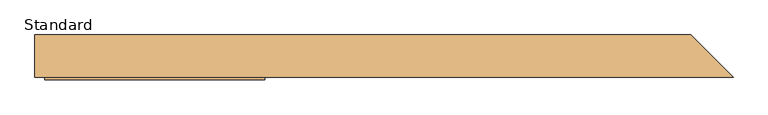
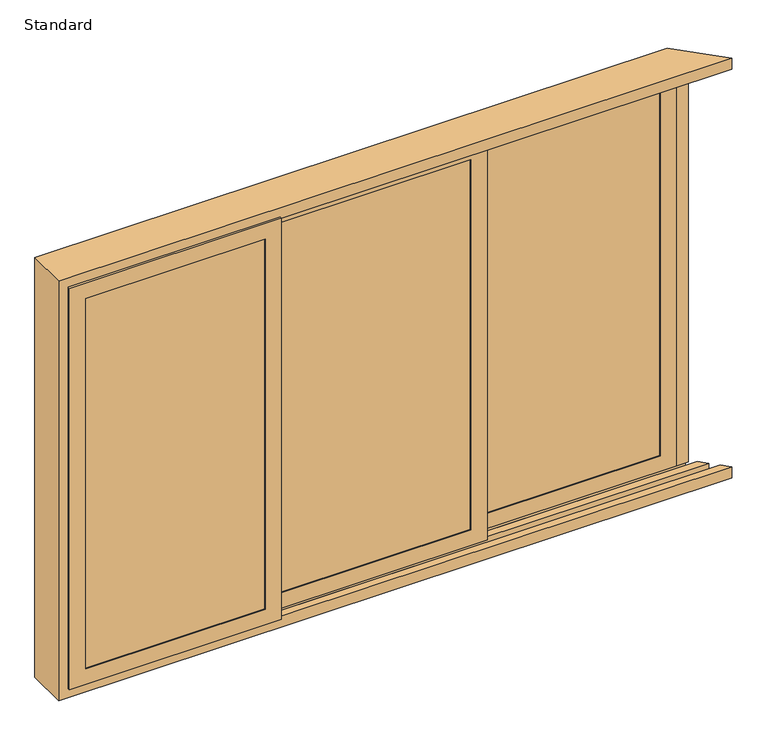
"""IFC4 building model written with IfcOpenShell, lengths in millimetres: door geometry, SMARTS_Visoglide Plus Corner Opening : Standard."""

from ifc_helpers import new_model, si_unit, frame, origin, place, context, project, spatial, polyline, outline, extrude, faceted_brep, source, transform, mapped, element, save


def standard_207e7545(model_context):
    return source(origin(), model_context, "Body", "SolidModel", [
        extrude(outline(polyline([(1347.5, 67.0), (1347.5, 63.0), (509.8333333, 63.0), (509.8333333, 67.0), (1347.5, 67.0)])), frame((0.0, 0.0, 952.5), z_axis=(0.0, 0.0, 1.0), x_axis=(1.0, 0.0, 0.0)), (0.0, 0.0, 1.0), 1795.0),
        extrude(outline(polyline([(1347.5, 47.0), (1347.5, 43.0), (509.8333333, 43.0), (509.8333333, 47.0), (1347.5, 47.0)])), frame((0.0, 0.0, 952.5), z_axis=(0.0, 0.0, 1.0), x_axis=(1.0, 0.0, 0.0)), (0.0, 0.0, 1.0), 1795.0),
        extrude(outline(polyline([(2747.5, 1347.5), (2747.5, 509.8333333), (952.5, 509.8333333), (952.5, 1347.5), (2747.5, 1347.5)]), holes=[polyline([(2737.5, 519.8333333), (2737.5, 1337.5), (962.5, 1337.5), (962.5, 519.8333333), (2737.5, 519.8333333)])]), frame((0.0, 47.0, 0.0), z_axis=(0.0, 1.0, 0.0), x_axis=(0.0, 0.0, 1.0)), (0.0, 0.0, 1.0), 16.0),
        extrude(outline(polyline([(947.5, 1352.5), (2752.5, 1352.5), (2752.5, 504.8333333), (947.5, 504.8333333), (947.5, 1352.5)]), holes=[polyline([(2732.5, 1332.5), (967.5, 1332.5), (967.5, 524.8333333), (2732.5, 524.8333333), (2732.5, 1332.5)])]), frame((0.0, 74.0102223, 0.0), z_axis=(0.0, 1.0, 0.0), x_axis=(0.0, 0.0, 1.0)), (0.0, 0.0, 1.0), 11.9897777),
        extrude(outline(polyline([(893.5, 1406.5), (2806.5, 1406.5), (2806.5, 450.8333333), (893.5, 450.8333333), (893.5, 1406.5)]), holes=[polyline([(2752.5, 1352.5), (947.5, 1352.5), (947.5, 504.8333333), (2752.5, 504.8333333), (2752.5, 1352.5)])]), frame((0.0, 62.0, 0.0), z_axis=(0.0, 1.0, 0.0), x_axis=(0.0, 0.0, 1.0)), (0.0, 0.0, 1.0), 24.0),
        faceted_brep([(1332.5, 39.0, 2732.5), (1332.5, 39.0, 967.5), (1332.5, 35.0, 967.5), (1332.5, 35.0, 2732.5), (1355.5, 62.0, 2755.5), (1355.5, 62.0, 944.5), (1355.5, 39.0, 944.5), (1355.5, 39.0, 2755.5), (1406.5, 35.0, 2806.5), (1406.5, 35.0, 893.5), (1406.5, 62.0, 893.5), (1406.5, 62.0, 2806.5), (524.8333333, 39.0, 967.5), (524.8333333, 35.0, 967.5), (501.8333333, 62.0, 944.5), (501.8333333, 39.0, 944.5), (450.8333333, 35.0, 893.5), (450.8333333, 62.0, 893.5), (524.8333333, 39.0, 2732.5), (524.8333333, 35.0, 2732.5), (501.8333333, 62.0, 2755.5), (501.8333333, 39.0, 2755.5), (450.8333333, 35.0, 2806.5), (450.8333333, 62.0, 2806.5)], [[[0, 1, 2, 3]], [[4, 5, 6, 7]], [[8, 9, 10, 11]], [[1, 12, 13, 2]], [[5, 14, 15, 6]], [[9, 16, 17, 10]], [[12, 18, 19, 13]], [[14, 20, 21, 15]], [[16, 22, 23, 17]], [[9, 8, 22, 16], [3, 2, 13, 19]], [[18, 0, 3, 19]], [[7, 6, 15, 21], [1, 0, 18, 12]], [[20, 4, 7, 21]], [[11, 10, 17, 23], [5, 4, 20, 14]], [[22, 8, 11, 23]]]),
        extrude(outline(polyline([(456.8333333, 0.0), (456.8333333, -4.0), (-456.8333333, -4.0), (-456.8333333, 0.0), (456.8333333, 0.0)])), frame((0.0, 0.0, 952.5), z_axis=(0.0, 0.0, 1.0), x_axis=(1.0, 0.0, 0.0)), (0.0, 0.0, 1.0), 1795.0),
        extrude(outline(polyline([(456.8333333, -20.0), (456.8333333, -24.0), (-456.8333333, -24.0), (-456.8333333, -20.0), (456.8333333, -20.0)])), frame((0.0, 0.0, 952.5), z_axis=(0.0, 0.0, 1.0), x_axis=(1.0, 0.0, 0.0)), (0.0, 0.0, 1.0), 1795.0),
        extrude(outline(polyline([(2747.5, 456.8333333), (2747.5, -456.8333333), (952.5, -456.8333333), (952.5, 456.8333333), (2747.5, 456.8333333)]), holes=[polyline([(2737.5, -446.8333333), (2737.5, 446.8333333), (962.5, 446.8333333), (962.5, -446.8333333), (2737.5, -446.8333333)])]), frame((0.0, -20.0, 0.0), z_axis=(0.0, 1.0, 0.0), x_axis=(0.0, 0.0, 1.0)), (0.0, 0.0, 1.0), 16.0),
        extrude(outline(polyline([(947.5, 461.8333333), (2752.5, 461.8333333), (2752.5, -461.8333333), (947.5, -461.8333333), (947.5, 461.8333333)]), holes=[polyline([(2732.5, 441.8333333), (967.5, 441.8333333), (967.5, -441.8333333), (2732.5, -441.8333333), (2732.5, 441.8333333)])]), frame((0.0, 7.0102223, 0.0), z_axis=(0.0, 1.0, 0.0), x_axis=(0.0, 0.0, 1.0)), (0.0, 0.0, 1.0), 11.9897777),
        extrude(outline(polyline([(893.5, 515.8333333), (2806.5, 515.8333333), (2806.5, -515.8333333), (893.5, -515.8333333), (893.5, 515.8333333)]), holes=[polyline([(2752.5, 461.8333333), (947.5, 461.8333333), (947.5, -461.8333333), (2752.5, -461.8333333), (2752.5, 461.8333333)])]), frame((0.0, -5.0, 0.0), z_axis=(0.0, 1.0, 0.0), x_axis=(0.0, 0.0, 1.0)), (0.0, 0.0, 1.0), 24.0),
        faceted_brep([(441.8333333, -28.0, 2732.5), (441.8333333, -28.0, 967.5), (441.8333333, -32.0, 967.5), (441.8333333, -32.0, 2732.5), (464.8333333, -5.0, 2755.5), (464.8333333, -5.0, 944.5), (464.8333333, -28.0, 944.5), (464.8333333, -28.0, 2755.5), (515.8333333, -32.0, 2806.5), (515.8333333, -32.0, 893.5), (515.8333333, -5.0, 893.5), (515.8333333, -5.0, 2806.5), (-441.8333333, -28.0, 967.5), (-441.8333333, -32.0, 967.5), (-464.8333333, -5.0, 944.5), (-464.8333333, -28.0, 944.5), (-515.8333333, -32.0, 893.5), (-515.8333333, -5.0, 893.5), (-441.8333333, -28.0, 2732.5), (-441.8333333, -32.0, 2732.5), (-464.8333333, -5.0, 2755.5), (-464.8333333, -28.0, 2755.5), (-515.8333333, -32.0, 2806.5), (-515.8333333, -5.0, 2806.5)], [[[0, 1, 2, 3]], [[4, 5, 6, 7]], [[8, 9, 10, 11]], [[1, 12, 13, 2]], [[5, 14, 15, 6]], [[9, 16, 17, 10]], [[12, 18, 19, 13]], [[14, 20, 21, 15]], [[16, 22, 23, 17]], [[9, 8, 22, 16], [3, 2, 13, 19]], [[18, 0, 3, 19]], [[7, 6, 15, 21], [1, 0, 18, 12]], [[20, 4, 7, 21]], [[11, 10, 17, 23], [5, 4, 20, 14]], [[22, 8, 11, 23]]]),
        extrude(outline(polyline([(-509.8333333, -67.0), (-509.8333333, -71.0), (-1347.5, -71.0), (-1347.5, -67.0), (-509.8333333, -67.0)])), frame((0.0, 0.0, 952.5), z_axis=(0.0, 0.0, 1.0), x_axis=(1.0, 0.0, 0.0)), (0.0, 0.0, 1.0), 1795.0),
        extrude(outline(polyline([(-509.8333333, -87.0), (-509.8333333, -91.0), (-1347.5, -91.0), (-1347.5, -87.0), (-509.8333333, -87.0)])), frame((0.0, 0.0, 952.5), z_axis=(0.0, 0.0, 1.0), x_axis=(1.0, 0.0, 0.0)), (0.0, 0.0, 1.0), 1795.0),
        extrude(outline(polyline([(2747.5, -509.8333333), (2747.5, -1347.5), (952.5, -1347.5), (952.5, -509.8333333), (2747.5, -509.8333333)]), holes=[polyline([(2737.5, -1337.5), (2737.5, -519.8333333), (962.5, -519.8333333), (962.5, -1337.5), (2737.5, -1337.5)])]), frame((0.0, -87.0, 0.0), z_axis=(0.0, 1.0, 0.0), x_axis=(0.0, 0.0, 1.0)), (0.0, 0.0, 1.0), 16.0),
        extrude(outline(polyline([(947.5, -504.8333333), (2752.5, -504.8333333), (2752.5, -1352.5), (947.5, -1352.5), (947.5, -504.8333333)]), holes=[polyline([(2732.5, -524.8333333), (967.5, -524.8333333), (967.5, -1332.5), (2732.5, -1332.5), (2732.5, -524.8333333)])]), frame((0.0, -59.9897777, 0.0), z_axis=(0.0, 1.0, 0.0), x_axis=(0.0, 0.0, 1.0)), (0.0, 0.0, 1.0), 11.9897777),
        extrude(outline(polyline([(893.5, -450.8333333), (2806.5, -450.8333333), (2806.5, -1406.5), (893.5, -1406.5), (893.5, -450.8333333)]), holes=[polyline([(2752.5, -504.8333333), (947.5, -504.8333333), (947.5, -1352.5), (2752.5, -1352.5), (2752.5, -504.8333333)])]), frame((0.0, -72.0, 0.0), z_axis=(0.0, 1.0, 0.0), x_axis=(0.0, 0.0, 1.0)), (0.0, 0.0, 1.0), 24.0),
        faceted_brep([(-524.8333333, -95.0, 2732.5), (-524.8333333, -95.0, 967.5), (-524.8333333, -99.0, 967.5), (-524.8333333, -99.0, 2732.5), (-501.8333333, -72.0, 2755.5), (-501.8333333, -72.0, 944.5), (-501.8333333, -95.0, 944.5), (-501.8333333, -95.0, 2755.5), (-450.8333333, -99.0, 2806.5), (-450.8333333, -99.0, 893.5), (-450.8333333, -72.0, 893.5), (-450.8333333, -72.0, 2806.5), (-1332.5, -95.0, 967.5), (-1332.5, -99.0, 967.5), (-1355.5, -72.0, 944.5), (-1355.5, -95.0, 944.5), (-1406.5, -99.0, 893.5), (-1406.5, -72.0, 893.5), (-1332.5, -95.0, 2732.5), (-1332.5, -99.0, 2732.5), (-1355.5, -72.0, 2755.5), (-1355.5, -95.0, 2755.5), (-1406.5, -99.0, 2806.5), (-1406.5, -72.0, 2806.5)], [[[0, 1, 2, 3]], [[4, 5, 6, 7]], [[8, 9, 10, 11]], [[1, 12, 13, 2]], [[5, 14, 15, 6]], [[9, 16, 17, 10]], [[12, 18, 19, 13]], [[14, 20, 21, 15]], [[16, 22, 23, 17]], [[9, 8, 22, 16], [3, 2, 13, 19]], [[18, 0, 3, 19]], [[7, 6, 15, 21], [1, 0, 18, 12]], [[20, 4, 7, 21]], [[11, 10, 17, 23], [5, 4, 20, 14]], [[22, 8, 11, 23]]]),
        faceted_brep([(-1450.0, -89.39785, 2850.0), (1584.4707253, -89.39785, 2850.0), (1400.0728753, 95.0, 2850.0), (-1450.0, 95.0, 2850.0), (-1398.1999999, 95.0, 2798.1999999), (1400.0728753, 95.0, 2798.1999999), (1404.0728753, 91.0, 2798.1999999), (-1398.1999999, 91.0, 2798.1999999), (-1424.1999999, 91.0, 2824.1999999), (1404.0728753, 91.0, 2824.1999999), (1418.7728753, 76.3, 2824.1999999), (-1424.1999999, 76.3, 2824.1999999), (-1398.1999999, 76.3, 2798.1999999), (1418.7728753, 76.3, 2798.1999999), (1451.2886502, 43.7842251, 2798.1999999), (-1398.1999999, 43.7842251, 2798.1999999), (-1424.1999999, 43.7842251, 2824.1999999), (1451.2886502, 43.7842251, 2824.1999999), (1485.2886502, 9.7842251, 2824.1999999), (-1424.1999999, 9.7842251, 2824.1999999), (-1398.1999999, 9.7842251, 2798.1999999), (1485.2886502, 9.7842251, 2798.1999999), (1517.8718161, -22.7989407, 2798.1999999), (-1398.1999999, -22.7989407, 2798.1999999), (-1424.2, -22.7989407, 2824.2), (1517.8718161, -22.7989407, 2824.2), (1551.8718161, -56.7989407, 2824.2), (-1424.2, -56.7989407, 2824.2), (-1398.0, -56.7989407, 2798.0), (1551.8718161, -56.7989407, 2798.0), (1584.4707253, -89.39785, 2798.0), (-1398.0, -89.39785, 2798.0), (-1450.0, 95.0, 850.0), (-1450.0, -89.39785, 850.0), (-1398.1999999, 91.0, 901.8000001), (-1398.1999999, 95.0, 901.8000001), (-1424.1999999, 76.3, 875.8000001), (-1424.1999999, 91.0, 875.8000001), (-1398.1999999, 43.7842251, 901.8000001), (-1398.1999999, 76.3, 901.8000001), (-1424.1999999, 9.7842251, 875.8000001), (-1424.1999999, 43.7842251, 875.8000001), (-1398.1999999, -22.7989407, 901.8000001), (-1398.1999999, 9.7842251, 901.8000001), (-1424.2, -56.7989407, 875.8), (-1424.2, -22.7989407, 875.8), (-1398.0, -89.39785, 902.0), (-1398.0, -56.7989407, 902.0), (1400.0728753, 95.0, 850.0), (1584.4707253, -89.39785, 850.0), (1404.0728753, 91.0, 901.8000001), (1400.0728753, 95.0, 901.8000001), (1418.7728753, 76.3, 875.8000001), (1404.0728753, 91.0, 875.8000001), (1451.2886502, 43.7842251, 901.8000001), (1418.7728753, 76.3, 901.8000001), (1485.2886502, 9.7842251, 875.8000001), (1451.2886502, 43.7842251, 875.8000001), (1517.8718161, -22.7989407, 901.8000001), (1485.2886502, 9.7842251, 901.8000001), (1551.8718161, -56.7989407, 875.8), (1517.8718161, -22.7989407, 875.8), (1584.4707253, -89.39785, 902.0), (1551.8718161, -56.7989407, 902.0)], [[[0, 1, 2, 3]], [[4, 5, 6, 7]], [[8, 9, 10, 11]], [[12, 13, 14, 15]], [[16, 17, 18, 19]], [[20, 21, 22, 23]], [[24, 25, 26, 27]], [[28, 29, 30, 31]], [[3, 32, 33, 0]], [[7, 34, 35, 4]], [[11, 36, 37, 8]], [[15, 38, 39, 12]], [[19, 40, 41, 16]], [[23, 42, 43, 20]], [[27, 44, 45, 24]], [[31, 46, 47, 28]], [[32, 48, 49, 33]], [[34, 50, 51, 35]], [[36, 52, 53, 37]], [[38, 54, 55, 39]], [[40, 56, 57, 41]], [[42, 58, 59, 43]], [[44, 60, 61, 45]], [[46, 62, 63, 47]], [[33, 49, 62, 46, 31, 30, 1, 0]], [[3, 2, 5, 4, 35, 51, 48, 32]], [[7, 6, 9, 8, 37, 53, 50, 34]], [[11, 10, 13, 12, 39, 55, 52, 36]], [[15, 14, 17, 16, 41, 57, 54, 38]], [[19, 18, 21, 20, 43, 59, 56, 40]], [[23, 22, 25, 24, 45, 61, 58, 42]], [[27, 26, 29, 28, 47, 63, 60, 44]], [[1, 30, 29, 26, 25, 22, 21, 18, 17, 14, 13, 10, 9, 6, 5, 2]], [[48, 51, 50, 53, 52, 55, 54, 57, 56, 59, 58, 61, 60, 63, 62, 49]]]),
        extrude(outline(polyline([(1460.0728753, 35.0), (1406.5, 35.0), (1406.5, 81.7), (1413.3728753, 81.7), (1460.0728753, 35.0)])), frame((0.0, 0.0, 893.5), z_axis=(0.0, 0.0, 1.0), x_axis=(1.0, 0.0, 0.0)), (0.0, 0.0, 1.0), 1913.0),
    ])


if __name__ == "__main__":
    model = new_model("IFC4")
    model_context = context("Model", 3, world=origin())
    ifc_project = project(units=[si_unit("LENGTHUNIT", "METRE", prefix="MILLI")], contexts=[model_context])
    site = spatial("IfcSite", under=ifc_project)
    building = spatial("IfcBuilding", under=site)
    placement = place(None, origin())
    standard_shape = standard_207e7545(model_context)
    element("IfcDoor", 1, ObjectType="SMARTS_Visoglide Plus Corner Opening : Standard", at=placement, inside=building, context=model_context, shape_type="MappedRepresentation", body=[
        mapped(standard_shape, transform((0.0, 0.0, 0.0), x_axis=(1.0, 0.0, 0.0), y_axis=(0.0, 1.0, 0.0), z_axis=(0.0, 0.0, 1.0))),
    ])
    save(model, "model.ifc")
